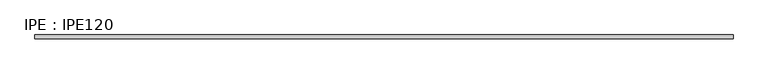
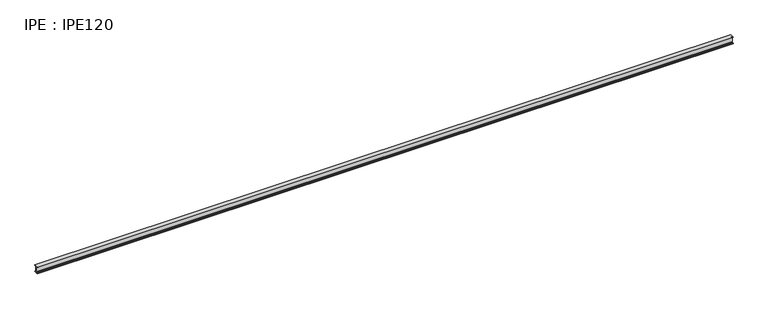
"""IFC4 building model written with IfcOpenShell, lengths in millimetres: beam geometry, IPE : IPE120."""

from ifc_helpers import new_model, si_unit, point, frame, frame_2d, origin, place, context, project, spatial, polyline, circle_curve, trimmed, segment, composite_curve, outline, extrude, source, transform, mapped, element, save


def ipe_ipe120_c653d2c4(model_context):
    return source(origin(), model_context, "Body", "SweptSolid", [
        extrude(outline(composite_curve([segment(polyline([(-32.0, -53.7), (-9.2, -53.7)]), True, "CONTINUOUS"), segment(trimmed(circle_curve(frame_2d((-9.2, -46.7)), 7.0), [point((-9.2, -53.7))], [point((-2.2, -46.7))], True, "CARTESIAN"), True, "CONTINUOUS"), segment(polyline([(-2.2, -46.7), (-2.2, 46.7)]), True, "CONTINUOUS"), segment(trimmed(circle_curve(frame_2d((-9.2, 46.7)), 7.0), [point((-2.2, 46.7))], [point((-9.2, 53.7))], True, "CARTESIAN"), True, "CONTINUOUS"), segment(polyline([(-9.2, 53.7), (-32.0, 53.7), (-32.0, 60.0), (32.0, 60.0), (32.0, 53.7), (9.2, 53.7)]), True, "CONTINUOUS"), segment(trimmed(circle_curve(frame_2d((9.2, 46.7)), 7.0), [point((9.2, 53.7))], [point((2.2, 46.7))], True, "CARTESIAN"), True, "CONTINUOUS"), segment(polyline([(2.2, 46.7), (2.2, -46.7)]), True, "CONTINUOUS"), segment(trimmed(circle_curve(frame_2d((9.2, -46.7)), 7.0), [point((2.2, -46.7))], [point((9.2, -53.7))], True, "CARTESIAN"), True, "CONTINUOUS"), segment(polyline([(9.2, -53.7), (32.0, -53.7), (32.0, -60.0), (-32.0, -60.0), (-32.0, -53.7)]), True, "CONTINUOUS")], self_intersect=False)), frame((-6000.0, 0.0, 0.0), z_axis=(1.0, 0.0, 0.0), x_axis=(0.0, 1.0, 0.0)), (0.0, 0.0, 1.0), 12000.0),
    ])


if __name__ == "__main__":
    model = new_model("IFC4")
    model_context = context("Model", 3, world=origin())
    ifc_project = project(units=[si_unit("LENGTHUNIT", "METRE", prefix="MILLI")], contexts=[model_context])
    site = spatial("IfcSite", under=ifc_project)
    building = spatial("IfcBuilding", under=site)
    placement = place(None, origin())
    ipe_ipe120_shape = ipe_ipe120_c653d2c4(model_context)
    element("IfcBeam", 1, ObjectType="IPE : IPE120", at=placement, inside=building, context=model_context, shape_type="MappedRepresentation", body=[
        mapped(ipe_ipe120_shape, transform((0.0, 0.0, 0.0), x_axis=(1.0, 0.0, 0.0), y_axis=(0.0, 1.0, 0.0), z_axis=(0.0, 0.0, 1.0))),
    ])
    save(model, "model.ifc")
